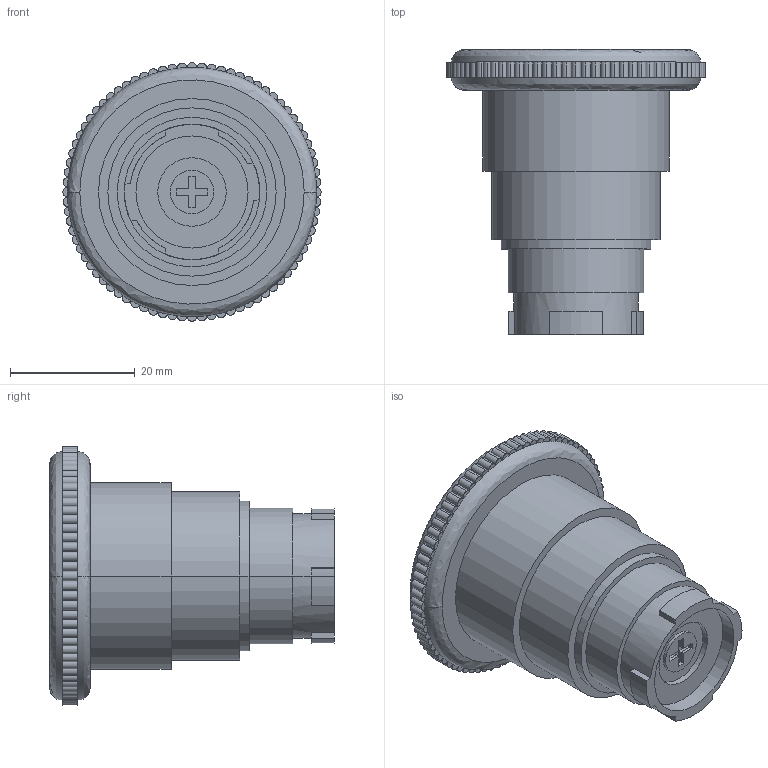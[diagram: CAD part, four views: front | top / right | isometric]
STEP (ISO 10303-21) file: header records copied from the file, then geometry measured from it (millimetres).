
FILE_DESCRIPTION (( 'STEP AP214' ), '1' );
FILE_NAME ('3D 斁麧錪 MTB2-BS54.STEP', '2017-03-03T07:01:54', ( 'adm' ), ( 'MICROSOFT' ), 'SwSTEP 2.0', 'SolidWorks 2011', '' );
FILE_SCHEMA (( 'AUTOMOTIVE_DESIGN' ));
Length unit declared in the file: millimetre
Products named in the file (1): 3D 斁麧錪 MTB2-BS54
Bounding box: 41.5 x 45.7 x 41.5 mm (x, y, z)
Volume: 28309 mm3; surface area: 9829.5 mm2
Topology: 5 solids, 5 shells, 465 faces, 1021 edges, 574 vertices
Faces by surface type: cylinder 232, plane 229, bspline 4
Entity records: 18082 total; most frequent: DIRECTION 2565, CARTESIAN_POINT 2353, ORIENTED_EDGE 2042, AXIS2_PLACEMENT_3D 1094, EDGE_CURVE 1021, CIRCLE 632, VERTEX_POINT 574, EDGE_LOOP 475
